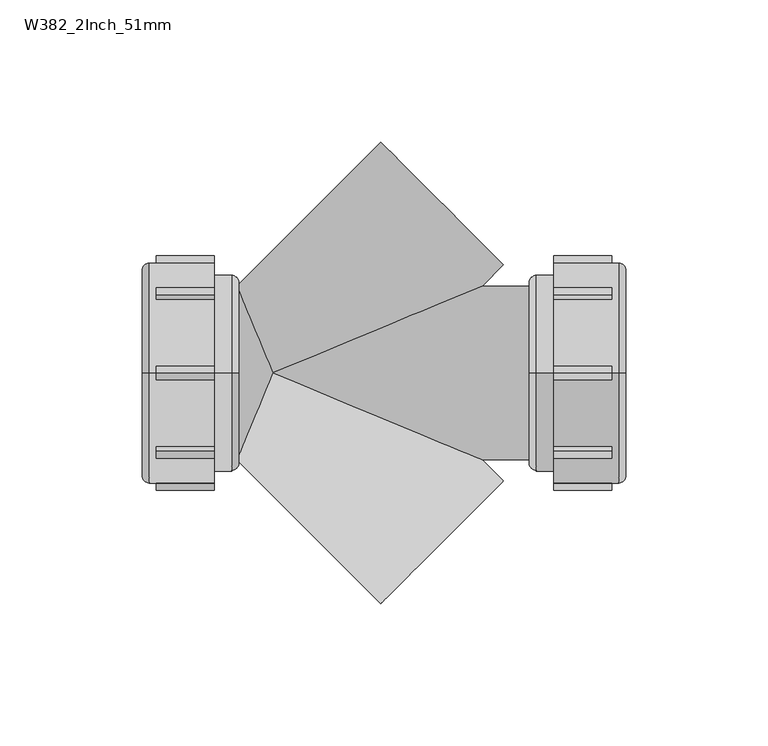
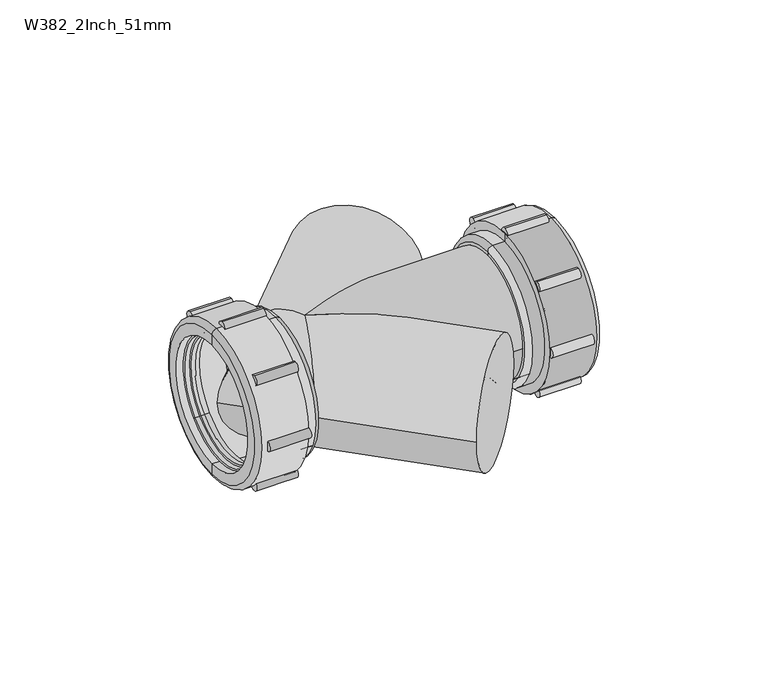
"""IFC4 building model written with IfcOpenShell, lengths in millimetres: pipe fitting geometry, Durapipe_PipeFitting_VulcatheneMechanical_DoubleWye_W38 : W382_2Inch_51mm."""

from ifc_helpers import new_model, si_unit, point, frame, frame_2d, origin, place, context, project, spatial, polyline, circle_curve, ellipse_curve, trimmed, segment, composite_curve, outline, extrude, source, transform, mapped, element, save
from ifc_brep_helpers import plane_surface, cylinder_surface, revolved_surface, advanced_brep


def w382_2inch_51mm_790bf67c(model_context):
    return source(origin(), model_context, "Body", "SolidModel", [
        advanced_brep(
        [(98.7, 0.0, 38.8), (121.6, 0.0, 38.8), (121.6, 0.0, -38.8), (98.7, 0.0, -38.8), (98.7, 0.0, 34.5), (98.7, 0.0, -34.5), (124.1, 0.0, 36.3), (124.1, 0.0, 31.0), (124.1, 0.0, -31.0), (124.1, 0.0, -36.3), (120.2, 0.0, 33.0), (98.7, 0.0, 33.0), (98.7, 0.0, -33.0), (120.2, 0.0, -33.0), (120.2, 0.0, 31.0), (120.2, 0.0, -31.0), (92.7, 0.0, 34.5), (92.7, 0.0, -34.5), (90.2, 0.0, 32.0), (90.2, 0.0, -32.0), (90.2, 0.0, 0.0), (98.7, 0.0, 0.0)],
        [
            (0, 1),
            (1, 2, circle_curve(frame((121.6, 0.0, 0.0), z_axis=(-1.0, 0.0, 0.0), x_axis=(0.0, 0.0, -1.0000000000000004)), 38.8)),
            (2, 3),
            (3, 0, circle_curve(frame((98.7, 0.0, 0.0), z_axis=(1.0, 0.0, 0.0), x_axis=(0.0, 0.0, -1.0000000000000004)), 38.8)),
            (2, 1, circle_curve(frame((121.6, 0.0, 0.0), z_axis=(-1.0, 0.0, 0.0), x_axis=(0.0, 0.0, -1.0000000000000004)), 38.8)),
            (0, 3, circle_curve(frame((98.7, 0.0, 0.0), z_axis=(1.0, 0.0, 0.0), x_axis=(0.0, 0.0, -1.0000000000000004)), 38.8)),
            (4, 0),
            (3, 5),
            (5, 4, circle_curve(frame((98.7, 0.0, 0.0), z_axis=(1.0, 0.0, 0.0), x_axis=(0.0, 0.0, -1.0000000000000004)), 34.5)),
            (4, 5, circle_curve(frame((98.7, 0.0, 0.0), z_axis=(1.0, 0.0, 0.0), x_axis=(0.0, 0.0, -1.0000000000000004)), 34.5)),
            (6, 7),
            (7, 8, circle_curve(frame((124.1, 0.0, 0.0), z_axis=(-1.0, 0.0, 0.0), x_axis=(0.0, 0.0, -1.0000000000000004)), 31.0)),
            (8, 9),
            (9, 6, circle_curve(frame((124.1, 0.0, 0.0), z_axis=(1.0, 0.0, 0.0), x_axis=(0.0, 0.0, -1.0000000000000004)), 36.3)),
            (8, 7, circle_curve(frame((124.1, 0.0, 0.0), z_axis=(-1.0, 0.0, 0.0), x_axis=(0.0, 0.0, -1.0000000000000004)), 31.0)),
            (6, 9, circle_curve(frame((124.1, 0.0, 0.0), z_axis=(1.0, 0.0, 0.0), x_axis=(0.0, 0.0, -1.0000000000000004)), 36.3)),
            (1, 6, circle_curve(frame((121.6, 0.0, 36.3), z_axis=(0.0, 1.0000000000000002, 0.0), x_axis=(1.0000000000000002, 0.0, 0.0)), 2.5)),
            (9, 2, circle_curve(frame((121.6, 0.0, -36.3), z_axis=(0.0, 1.0000000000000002, 0.0), x_axis=(1.0000000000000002, 0.0, 0.0)), 2.5)),
            (10, 11),
            (11, 12, circle_curve(frame((98.7, 0.0, 0.0), z_axis=(-1.0, 0.0, 0.0), x_axis=(0.0, 0.0, -1.0000000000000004)), 33.0)),
            (12, 13),
            (13, 10, circle_curve(frame((120.2, 0.0, 0.0), z_axis=(1.0, 0.0, 0.0), x_axis=(0.0, 0.0, -1.0000000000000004)), 33.0)),
            (12, 11, circle_curve(frame((98.7, 0.0, 0.0), z_axis=(-1.0, 0.0, 0.0), x_axis=(0.0, 0.0, -1.0000000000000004)), 33.0)),
            (10, 13, circle_curve(frame((120.2, 0.0, 0.0), z_axis=(1.0, 0.0, 0.0), x_axis=(0.0, 0.0, -1.0000000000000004)), 33.0)),
            (14, 10),
            (13, 15),
            (15, 14, circle_curve(frame((120.2, 0.0, 0.0), z_axis=(1.0, 0.0, 0.0), x_axis=(0.0, 0.0, -1.0000000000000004)), 31.0)),
            (14, 15, circle_curve(frame((120.2, 0.0, 0.0), z_axis=(1.0, 0.0, 0.0), x_axis=(0.0, 0.0, -1.0000000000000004)), 31.0)),
            (7, 14),
            (15, 8),
            (16, 4),
            (5, 17),
            (17, 16, circle_curve(frame((92.7, 0.0, 0.0), z_axis=(1.0, 0.0, 0.0), x_axis=(0.0, 0.0, -1.0000000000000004)), 34.5)),
            (16, 17, circle_curve(frame((92.7, 0.0, 0.0), z_axis=(1.0, 0.0, 0.0), x_axis=(0.0, 0.0, -1.0000000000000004)), 34.5)),
            (18, 16, circle_curve(frame((92.7, 0.0, 32.0), z_axis=(0.0, 1.0000000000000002, 0.0), x_axis=(1.0000000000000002, 0.0, 0.0)), 2.5)),
            (17, 19, circle_curve(frame((92.7, 0.0, -32.0), z_axis=(0.0, 1.0000000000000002, 0.0), x_axis=(1.0000000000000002, 0.0, 0.0)), 2.5)),
            (19, 18, circle_curve(frame((90.2, 0.0, 0.0), z_axis=(1.0, 0.0, 0.0), x_axis=(0.0, 0.0, -1.0000000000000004)), 32.0)),
            (18, 19, circle_curve(frame((90.2, 0.0, 0.0), z_axis=(1.0, 0.0, 0.0), x_axis=(0.0, 0.0, -1.0000000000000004)), 32.0)),
            (20, 18),
            (19, 20),
            (11, 21),
            (21, 12),
        ],
        [
            cylinder_surface(frame((1684.9018184, 0.0, 0.0), z_axis=(-1.0000000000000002, 0.0, 0.0), x_axis=(0.0, 0.0, -1.0000000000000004)), 38.8),
            plane_surface(frame((98.7, 0.0, 0.0), z_axis=(-1.0, 0.0, 0.0), x_axis=(0.0, 0.0, -1.0))),
            plane_surface(frame((124.1, 0.0, 0.0), z_axis=(1.0, 0.0, 0.0), x_axis=(0.0, 0.0, -1.0))),
            revolved_surface(trimmed(ellipse_curve(frame((121.6, 0.0, -36.3), z_axis=(0.0, 1.0000000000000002, 0.0), x_axis=(1.0000000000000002, 0.0, 0.0)), 2.5, 2.5), [point((124.1, 0.0, -36.3))], [point((121.6, 0.0, -38.8))], True, "CARTESIAN"), (1684.9018184, 0.0, 0.0), (-1.0000000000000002, 0.0, 0.0)),
            revolved_surface(polyline([(98.69999999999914, 0.0, -33.000000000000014), (120.19999999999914, 0.0, -33.000000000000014)]), (1684.9018184, 0.0, 0.0), (-1.0000000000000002, 0.0, 0.0)),
            plane_surface(frame((120.2, 0.0, 0.0), z_axis=(-1.0, 0.0, 0.0), x_axis=(0.0, 0.0, -1.0))),
            revolved_surface(polyline([(120.19999999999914, 0.0, -31.000000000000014), (124.099999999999, 0.0, -31.000000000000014)]), (1684.9018184, 0.0, 0.0), (-1.0000000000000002, 0.0, 0.0)),
            cylinder_surface(frame((1684.9018184, 0.0, 0.0), z_axis=(-1.0000000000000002, 0.0, 0.0), x_axis=(0.0, 0.0, -1.0000000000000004)), 34.5),
            revolved_surface(trimmed(ellipse_curve(frame((92.7, 0.0, -32.0), z_axis=(0.0, 1.0000000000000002, 0.0), x_axis=(1.0000000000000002, 0.0, 0.0)), 2.5, 2.5), [point((92.7, 0.0, -34.5))], [point((90.2, 0.0, -32.0))], True, "CARTESIAN"), (1684.9018184, 0.0, 0.0), (-1.0000000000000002, 0.0, 0.0)),
            plane_surface(frame((90.2, 0.0, 0.0), z_axis=(-1.0, 0.0, 0.0), x_axis=(0.0, 0.0, -1.0))),
            plane_surface(frame((98.7, 0.0, 0.0), z_axis=(1.0, 0.0, 0.0), x_axis=(0.0, 0.0, -1.0))),
        ],
        [
            (0, [[1, 2, 3, 4]]),
            (0, [[-3, 5, -1, 6]]),
            (1, [[7, -4, 8, 9]]),
            (1, [[-8, -6, -7, 10]]),
            (2, [[11, 12, 13, 14]]),
            (2, [[-13, 15, -11, 16]]),
            (3, [[17, -14, 18, -2]]),
            (3, [[-18, -16, -17, -5]]),
            (4, [[19, 20, 21, 22]]),
            (4, [[-21, 23, -19, 24]]),
            (5, [[25, -22, 26, 27]]),
            (5, [[-26, -24, -25, 28]]),
            (6, [[29, -27, 30, -12]]),
            (6, [[-30, -28, -29, -15]]),
            (7, [[31, -9, 32, 33]]),
            (7, [[-32, -10, -31, 34]]),
            (8, [[35, -33, 36, 37]]),
            (8, [[-36, -34, -35, 38]]),
            (9, [[39, -37, 40]]),
            (9, [[-40, -38, -39]]),
            (10, [[41, 42, -20]]),
            (10, [[-42, -41, -23]]),
        ],
    ),
        extrude(outline(composite_curve([segment(trimmed(circle_curve(frame_2d((-38.8, 0.0)), 2.5), [point((-38.8, 2.5))], [point((-38.8, -2.5))], False, "CARTESIAN"), True, "CONTINUOUS"), segment(trimmed(circle_curve(frame_2d((-38.8, 0.0)), 2.5), [point((-38.8, -2.5))], [point((-38.8, 2.5))], False, "CARTESIAN"), True, "CONTINUOUS")], self_intersect=False)), frame((98.7, 0.0, 0.0), z_axis=(1.0, 0.0, 0.0), x_axis=(0.0, 1.0, 0.0)), (0.0, 0.0, 1.0), 20.4),
        extrude(outline(composite_curve([segment(trimmed(circle_curve(frame_2d((-27.4357431, -27.4357431)), 2.5), [point((-27.4357431, -24.9357431))], [point((-27.4357431, -29.9357431))], False, "CARTESIAN"), True, "CONTINUOUS"), segment(trimmed(circle_curve(frame_2d((-27.4357431, -27.4357431)), 2.5), [point((-27.4357431, -29.9357431))], [point((-27.4357431, -24.9357431))], False, "CARTESIAN"), True, "CONTINUOUS")], self_intersect=False)), frame((98.7, 0.0, 0.0), z_axis=(1.0, 0.0, 0.0), x_axis=(0.0, 1.0, 0.0)), (0.0, 0.0, 1.0), 20.4),
        extrude(outline(composite_curve([segment(trimmed(circle_curve(frame_2d((0.0, -38.8)), 2.5), [point((0.0, -36.3))], [point((0.0, -41.3))], False, "CARTESIAN"), True, "CONTINUOUS"), segment(trimmed(circle_curve(frame_2d((0.0, -38.8)), 2.5), [point((0.0, -41.3))], [point((0.0, -36.3))], False, "CARTESIAN"), True, "CONTINUOUS")], self_intersect=False)), frame((98.7, 0.0, 0.0), z_axis=(1.0, 0.0, 0.0), x_axis=(0.0, 1.0, 0.0)), (0.0, 0.0, 1.0), 20.4),
        extrude(outline(composite_curve([segment(trimmed(circle_curve(frame_2d((27.4357431, -27.4357431)), 2.5), [point((27.4357431, -24.9357431))], [point((27.4357431, -29.9357431))], False, "CARTESIAN"), True, "CONTINUOUS"), segment(trimmed(circle_curve(frame_2d((27.4357431, -27.4357431)), 2.5), [point((27.4357431, -29.9357431))], [point((27.4357431, -24.9357431))], False, "CARTESIAN"), True, "CONTINUOUS")], self_intersect=False)), frame((98.7, 0.0, 0.0), z_axis=(1.0, 0.0, 0.0), x_axis=(0.0, 1.0, 0.0)), (0.0, 0.0, 1.0), 20.4),
        extrude(outline(composite_curve([segment(trimmed(circle_curve(frame_2d((38.8, 0.0)), 2.5), [point((38.8, 2.5))], [point((38.8, -2.5))], False, "CARTESIAN"), True, "CONTINUOUS"), segment(trimmed(circle_curve(frame_2d((38.8, 0.0)), 2.5), [point((38.8, -2.5))], [point((38.8, 2.5))], False, "CARTESIAN"), True, "CONTINUOUS")], self_intersect=False)), frame((98.7, 0.0, 0.0), z_axis=(1.0, 0.0, 0.0), x_axis=(0.0, 1.0, 0.0)), (0.0, 0.0, 1.0), 20.4),
        extrude(outline(composite_curve([segment(trimmed(circle_curve(frame_2d((27.4357431, 27.4357431)), 2.5), [point((27.4357431, 29.9357431))], [point((27.4357431, 24.9357431))], False, "CARTESIAN"), True, "CONTINUOUS"), segment(trimmed(circle_curve(frame_2d((27.4357431, 27.4357431)), 2.5), [point((27.4357431, 24.9357431))], [point((27.4357431, 29.9357431))], False, "CARTESIAN"), True, "CONTINUOUS")], self_intersect=False)), frame((98.7, 0.0, 0.0), z_axis=(1.0, 0.0, 0.0), x_axis=(0.0, 1.0, 0.0)), (0.0, 0.0, 1.0), 20.4),
        extrude(outline(composite_curve([segment(trimmed(circle_curve(frame_2d((0.0, 38.8)), 2.5), [point((0.0, 41.3))], [point((0.0, 36.3))], False, "CARTESIAN"), True, "CONTINUOUS"), segment(trimmed(circle_curve(frame_2d((0.0, 38.8)), 2.5), [point((0.0, 36.3))], [point((0.0, 41.3))], False, "CARTESIAN"), True, "CONTINUOUS")], self_intersect=False)), frame((98.7, 0.0, 0.0), z_axis=(1.0, 0.0, 0.0), x_axis=(0.0, 1.0, 0.0)), (0.0, 0.0, 1.0), 20.4),
        extrude(outline(composite_curve([segment(trimmed(circle_curve(frame_2d((-27.4357431, 27.4357431)), 2.5), [point((-27.4357431, 29.9357431))], [point((-27.4357431, 24.9357431))], False, "CARTESIAN"), True, "CONTINUOUS"), segment(trimmed(circle_curve(frame_2d((-27.4357431, 27.4357431)), 2.5), [point((-27.4357431, 24.9357431))], [point((-27.4357431, 29.9357431))], False, "CARTESIAN"), True, "CONTINUOUS")], self_intersect=False)), frame((98.7, 0.0, 0.0), z_axis=(1.0, 0.0, 0.0), x_axis=(0.0, 1.0, 0.0)), (0.0, 0.0, 1.0), 20.4),
        advanced_brep(
        [(-42.0, 22.839549, -22.839549), (-42.0, 21.2839141, -21.2839141), (-42.0, -21.2839141, 21.2839141), (-42.0, -22.839549, 22.839549), (-36.4, 22.3445743, -22.3445743), (-36.4, -22.3445743, 22.3445743), (-35.0, 21.9203102, -21.9203102), (-36.4, 21.9203102, -21.9203102), (-36.4, -21.9203102, 21.9203102), (-35.0, -21.9203102, 21.9203102), (-35.0, -20.9303607, 20.9303607), (-35.0, 20.9303607, -20.9303607), (-37.3, -20.9303607, 20.9303607), (-37.3, 20.9303607, -20.9303607), (-37.3, -20.647518, 20.647518), (-37.3, 20.647518, -20.647518), (-39.5, 21.2839141, -21.2839141), (-39.5, 20.647518, -20.647518), (-39.5, -20.647518, 20.647518), (-39.5, -21.2839141, 21.2839141)],
        [
            (0, 1),
            (1, 2, circle_curve(frame((-42.0, 0.0, 0.0), z_axis=(1.0, 0.0, 0.0), x_axis=(0.0, -0.7071067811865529, 0.7071067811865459)), 30.1)),
            (2, 3),
            (3, 0, circle_curve(frame((-42.0, 0.0, 0.0), z_axis=(-1.0, 0.0, 0.0), x_axis=(0.0, -0.7071067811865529, 0.7071067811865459)), 32.3)),
            (2, 1, circle_curve(frame((-42.0, 0.0, 0.0), z_axis=(1.0, 0.0, 0.0), x_axis=(0.0, -0.7071067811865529, 0.7071067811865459)), 30.1)),
            (0, 3, circle_curve(frame((-42.0, 0.0, 0.0), z_axis=(-1.0, 0.0, 0.0), x_axis=(0.0, -0.7071067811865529, 0.7071067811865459)), 32.3)),
            (4, 0),
            (3, 5),
            (5, 4, circle_curve(frame((-36.4, 0.0, 0.0), z_axis=(-1.0, 0.0, 0.0), x_axis=(0.0, -0.7071067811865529, 0.7071067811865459)), 31.6)),
            (4, 5, circle_curve(frame((-36.4, 0.0, 0.0), z_axis=(-1.0, 0.0, 0.0), x_axis=(0.0, -0.7071067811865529, 0.7071067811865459)), 31.6)),
            (6, 7),
            (7, 8, circle_curve(frame((-36.4, 0.0, 0.0), z_axis=(1.0, 0.0, 0.0), x_axis=(0.0, -0.7071067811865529, 0.7071067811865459)), 31.0)),
            (8, 9),
            (9, 6, circle_curve(frame((-35.0, 0.0, 0.0), z_axis=(-1.0, 0.0, 0.0), x_axis=(0.0, -0.7071067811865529, 0.7071067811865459)), 31.0)),
            (8, 7, circle_curve(frame((-36.4, 0.0, 0.0), z_axis=(1.0, 0.0, 0.0), x_axis=(0.0, -0.7071067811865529, 0.7071067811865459)), 31.0)),
            (6, 9, circle_curve(frame((-35.0, 0.0, 0.0), z_axis=(-1.0, 0.0, 0.0), x_axis=(0.0, -0.7071067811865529, 0.7071067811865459)), 31.0)),
            (9, 10),
            (10, 11, circle_curve(frame((-35.0, 0.0, 0.0), z_axis=(-1.0, 0.0, 0.0), x_axis=(0.0, -0.7071067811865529, 0.7071067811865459)), 29.6)),
            (11, 6),
            (11, 10, circle_curve(frame((-35.0, 0.0, 0.0), z_axis=(-1.0, 0.0, 0.0), x_axis=(0.0, -0.7071067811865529, 0.7071067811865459)), 29.6)),
            (10, 12),
            (12, 13, circle_curve(frame((-37.3, 0.0, 0.0), z_axis=(-1.0, 0.0, 0.0), x_axis=(0.0, -0.7071067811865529, 0.7071067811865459)), 29.6)),
            (13, 11),
            (13, 12, circle_curve(frame((-37.3, 0.0, 0.0), z_axis=(-1.0, 0.0, 0.0), x_axis=(0.0, -0.7071067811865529, 0.7071067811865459)), 29.6)),
            (12, 14),
            (14, 15, circle_curve(frame((-37.3, 0.0, 0.0), z_axis=(-1.0, 0.0, 0.0), x_axis=(0.0, -0.7071067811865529, 0.7071067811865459)), 29.2)),
            (15, 13),
            (15, 14, circle_curve(frame((-37.3, 0.0, 0.0), z_axis=(-1.0, 0.0, 0.0), x_axis=(0.0, -0.7071067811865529, 0.7071067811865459)), 29.2)),
            (16, 17),
            (17, 18, circle_curve(frame((-39.5, 0.0, 0.0), z_axis=(1.0, 0.0, 0.0), x_axis=(0.0, -0.7071067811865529, 0.7071067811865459)), 29.2)),
            (18, 19),
            (19, 16, circle_curve(frame((-39.5, 0.0, 0.0), z_axis=(-1.0, 0.0, 0.0), x_axis=(0.0, -0.7071067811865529, 0.7071067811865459)), 30.1)),
            (18, 17, circle_curve(frame((-39.5, 0.0, 0.0), z_axis=(1.0, 0.0, 0.0), x_axis=(0.0, -0.7071067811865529, 0.7071067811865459)), 29.2)),
            (16, 19, circle_curve(frame((-39.5, 0.0, 0.0), z_axis=(-1.0, 0.0, 0.0), x_axis=(0.0, -0.7071067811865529, 0.7071067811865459)), 30.1)),
            (1, 16),
            (19, 2),
            (14, 18),
            (17, 15),
            (5, 8),
            (7, 4),
        ],
        [
            plane_surface(frame((-42.0, 0.0, 0.0), z_axis=(-1.0, 0.0, 0.0), x_axis=(0.0, -0.707106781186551, 0.707106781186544))),
            revolved_surface(polyline([(-42.0, -22.839549, 22.839549), (-36.4, -22.3445743, 22.3445743)]), (-47.0, 0.0, 0.0), (1.0000000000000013, 0.0, 0.0)),
            cylinder_surface(frame((-32.9293443, 0.0, 0.0), z_axis=(1.0000000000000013, 0.0, 0.0), x_axis=(0.0, -0.7071067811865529, 0.7071067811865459)), 31.0),
            plane_surface(frame((-35.0, 0.0, 0.0), z_axis=(1.0, 0.0, 0.0), x_axis=(0.0, -0.707106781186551, 0.707106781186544))),
            revolved_surface(polyline([(-35.00000000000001, -20.930360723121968, 20.93036072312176), (-37.30000000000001, -20.930360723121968, 20.93036072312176)]), (-31.507009, 0.0, 0.0), (1.0000000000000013, 0.0, 0.0)),
            plane_surface(frame((-37.3, 0.0, 0.0), z_axis=(1.0, 0.0, 0.0), x_axis=(0.0, -0.707106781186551, 0.707106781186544))),
            plane_surface(frame((-39.5, 0.0, 0.0), z_axis=(-1.0, 0.0, 0.0), x_axis=(0.0, -0.707106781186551, 0.707106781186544))),
            revolved_surface(polyline([(-39.49999999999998, -21.283914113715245, 21.28391411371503), (-41.999999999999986, -21.283914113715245, 21.28391411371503)]), (-47.0, 0.0, 0.0), (1.0000000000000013, 0.0, 0.0)),
            revolved_surface(polyline([(-37.29999999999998, -20.647518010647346, 20.64751801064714), (-39.499999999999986, -20.647518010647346, 20.64751801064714)]), (-43.5661924, 0.0, 0.0), (1.0000000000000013, 0.0, 0.0)),
            plane_surface(frame((-36.4, 0.0, 0.0), z_axis=(1.0, 0.0, 0.0), x_axis=(0.0, -0.707106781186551, 0.707106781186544))),
        ],
        [
            (0, [[1, 2, 3, 4]]),
            (0, [[5, -1, 6, -3]]),
            (1, [[7, -4, 8, 9]]),
            (1, [[-8, -6, -7, 10]]),
            (2, [[11, 12, 13, 14]]),
            (2, [[15, -11, 16, -13]]),
            (3, [[17, 18, 19, -14]]),
            (3, [[-19, 20, -17, -16]]),
            (4, [[-18, 21, 22, 23]]),
            (4, [[24, -21, -20, -23]]),
            (5, [[25, 26, 27, -22]]),
            (5, [[-27, 28, -25, -24]]),
            (6, [[29, 30, 31, 32]]),
            (6, [[-31, 33, -29, 34]]),
            (7, [[35, -32, 36, -2]]),
            (7, [[-36, -34, -35, -5]]),
            (8, [[-26, 37, -30, 38]]),
            (8, [[-33, -37, -28, -38]]),
            (9, [[39, -12, 40, -9]]),
            (9, [[-40, -15, -39, -10]]),
        ],
    ),
        advanced_brep(
        [(-20.5, 0.0, -38.8), (-43.4, 0.0, -38.8), (-43.4, 0.0, 38.8), (-20.5, 0.0, 38.8), (-20.5, 0.0, -34.5), (-20.5, 0.0, 34.5), (-45.9, 0.0, -36.3), (-45.9, 0.0, -31.0), (-45.9, 0.0, 31.0), (-45.9, 0.0, 36.3), (-42.0, 0.0, -33.0), (-20.5, 0.0, -33.0), (-20.5, 0.0, 33.0), (-42.0, 0.0, 33.0), (-42.0, 0.0, -31.0), (-42.0, 0.0, 31.0), (-14.5, 0.0, -34.5), (-14.5, 0.0, 34.5), (-12.0, 0.0, -32.0), (-12.0, 0.0, 32.0), (-12.0, 0.0, 0.0), (-20.5, 0.0, 0.0)],
        [
            (0, 1),
            (1, 2, circle_curve(frame((-43.4, 0.0, 0.0), z_axis=(1.0, 0.0, 0.0), x_axis=(0.0, 0.0, 1.0000000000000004)), 38.8)),
            (2, 3),
            (3, 0, circle_curve(frame((-20.5, 0.0, 0.0), z_axis=(-1.0, 0.0, 0.0), x_axis=(0.0, 0.0, 1.0000000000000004)), 38.8)),
            (2, 1, circle_curve(frame((-43.4, 0.0, 0.0), z_axis=(1.0, 0.0, 0.0), x_axis=(0.0, 0.0, 1.0000000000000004)), 38.8)),
            (0, 3, circle_curve(frame((-20.5, 0.0, 0.0), z_axis=(-1.0, 0.0, 0.0), x_axis=(0.0, 0.0, 1.0000000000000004)), 38.8)),
            (4, 0),
            (3, 5),
            (5, 4, circle_curve(frame((-20.5, 0.0, 0.0), z_axis=(-1.0, 0.0, 0.0), x_axis=(0.0, 0.0, 1.0000000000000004)), 34.5)),
            (4, 5, circle_curve(frame((-20.5, 0.0, 0.0), z_axis=(-1.0, 0.0, 0.0), x_axis=(0.0, 0.0, 1.0000000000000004)), 34.5)),
            (6, 7),
            (7, 8, circle_curve(frame((-45.9, 0.0, 0.0), z_axis=(1.0, 0.0, 0.0), x_axis=(0.0, 0.0, 1.0000000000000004)), 31.0)),
            (8, 9),
            (9, 6, circle_curve(frame((-45.9, 0.0, 0.0), z_axis=(-1.0, 0.0, 0.0), x_axis=(0.0, 0.0, 1.0000000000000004)), 36.3)),
            (8, 7, circle_curve(frame((-45.9, 0.0, 0.0), z_axis=(1.0, 0.0, 0.0), x_axis=(0.0, 0.0, 1.0000000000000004)), 31.0)),
            (6, 9, circle_curve(frame((-45.9, 0.0, 0.0), z_axis=(-1.0, 0.0, 0.0), x_axis=(0.0, 0.0, 1.0000000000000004)), 36.3)),
            (1, 6, circle_curve(frame((-43.4, 0.0, -36.3), z_axis=(0.0, 1.0000000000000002, 0.0), x_axis=(-1.0000000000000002, 0.0, 0.0)), 2.5)),
            (9, 2, circle_curve(frame((-43.4, 0.0, 36.3), z_axis=(0.0, 1.0000000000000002, 0.0), x_axis=(-1.0000000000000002, 0.0, 0.0)), 2.5)),
            (10, 11),
            (11, 12, circle_curve(frame((-20.5, 0.0, 0.0), z_axis=(1.0, 0.0, 0.0), x_axis=(0.0, 0.0, 1.0000000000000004)), 33.0)),
            (12, 13),
            (13, 10, circle_curve(frame((-42.0, 0.0, 0.0), z_axis=(-1.0, 0.0, 0.0), x_axis=(0.0, 0.0, 1.0000000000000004)), 33.0)),
            (12, 11, circle_curve(frame((-20.5, 0.0, 0.0), z_axis=(1.0, 0.0, 0.0), x_axis=(0.0, 0.0, 1.0000000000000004)), 33.0)),
            (10, 13, circle_curve(frame((-42.0, 0.0, 0.0), z_axis=(-1.0, 0.0, 0.0), x_axis=(0.0, 0.0, 1.0000000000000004)), 33.0)),
            (14, 10),
            (13, 15),
            (15, 14, circle_curve(frame((-42.0, 0.0, 0.0), z_axis=(-1.0, 0.0, 0.0), x_axis=(0.0, 0.0, 1.0000000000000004)), 31.0)),
            (14, 15, circle_curve(frame((-42.0, 0.0, 0.0), z_axis=(-1.0, 0.0, 0.0), x_axis=(0.0, 0.0, 1.0000000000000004)), 31.0)),
            (7, 14),
            (15, 8),
            (16, 4),
            (5, 17),
            (17, 16, circle_curve(frame((-14.5, 0.0, 0.0), z_axis=(-1.0, 0.0, 0.0), x_axis=(0.0, 0.0, 1.0000000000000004)), 34.5)),
            (16, 17, circle_curve(frame((-14.5, 0.0, 0.0), z_axis=(-1.0, 0.0, 0.0), x_axis=(0.0, 0.0, 1.0000000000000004)), 34.5)),
            (18, 16, circle_curve(frame((-14.5, 0.0, -32.0), z_axis=(0.0, 1.0000000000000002, 0.0), x_axis=(-1.0000000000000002, 0.0, 0.0)), 2.5)),
            (17, 19, circle_curve(frame((-14.5, 0.0, 32.0), z_axis=(0.0, 1.0000000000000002, 0.0), x_axis=(-1.0000000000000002, 0.0, 0.0)), 2.5)),
            (19, 18, circle_curve(frame((-12.0, 0.0, 0.0), z_axis=(-1.0, 0.0, 0.0), x_axis=(0.0, 0.0, 1.0000000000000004)), 32.0)),
            (18, 19, circle_curve(frame((-12.0, 0.0, 0.0), z_axis=(-1.0, 0.0, 0.0), x_axis=(0.0, 0.0, 1.0000000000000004)), 32.0)),
            (20, 18),
            (19, 20),
            (11, 21),
            (21, 12),
        ],
        [
            cylinder_surface(frame((-1606.7018184, 0.0, 0.0), z_axis=(1.0000000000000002, 0.0, 0.0), x_axis=(0.0, 0.0, 1.0000000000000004)), 38.8),
            plane_surface(frame((-20.5, 0.0, 0.0), z_axis=(1.0, 0.0, 0.0), x_axis=(0.0, 0.0, 1.0))),
            plane_surface(frame((-45.9, 0.0, 0.0), z_axis=(-1.0, 0.0, 0.0), x_axis=(0.0, 0.0, 1.0))),
            revolved_surface(trimmed(ellipse_curve(frame((-43.4, 0.0, 36.3), z_axis=(0.0, 1.0000000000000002, 0.0), x_axis=(-1.0000000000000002, 0.0, 0.0)), 2.5, 2.5), [point((-45.9, 0.0, 36.3))], [point((-43.4, 0.0, 38.8))], True, "CARTESIAN"), (-1606.7018184, 0.0, 0.0), (1.0000000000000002, 0.0, 0.0)),
            revolved_surface(polyline([(-20.49999999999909, 0.0, 33.000000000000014), (-41.99999999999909, 0.0, 33.000000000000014)]), (-1606.7018184, 0.0, 0.0), (1.0000000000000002, 0.0, 0.0)),
            plane_surface(frame((-42.0, 0.0, 0.0), z_axis=(1.0, 0.0, 0.0), x_axis=(0.0, 0.0, 1.0))),
            revolved_surface(polyline([(-41.99999999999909, 0.0, 31.000000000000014), (-45.89999999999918, 0.0, 31.000000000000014)]), (-1606.7018184, 0.0, 0.0), (1.0000000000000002, 0.0, 0.0)),
            cylinder_surface(frame((-1606.7018184, 0.0, 0.0), z_axis=(1.0000000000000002, 0.0, 0.0), x_axis=(0.0, 0.0, 1.0000000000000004)), 34.5),
            revolved_surface(trimmed(ellipse_curve(frame((-14.5, 0.0, 32.0), z_axis=(0.0, 1.0000000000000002, 0.0), x_axis=(-1.0000000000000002, 0.0, 0.0)), 2.5, 2.5), [point((-14.5, 0.0, 34.5))], [point((-12.0, 0.0, 32.0))], True, "CARTESIAN"), (-1606.7018184, 0.0, 0.0), (1.0000000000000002, 0.0, 0.0)),
            plane_surface(frame((-12.0, 0.0, 0.0), z_axis=(1.0, 0.0, 0.0), x_axis=(0.0, 0.0, 1.0))),
            plane_surface(frame((-20.5, 0.0, 0.0), z_axis=(-1.0, 0.0, 0.0), x_axis=(0.0, 0.0, 1.0))),
        ],
        [
            (0, [[1, 2, 3, 4]]),
            (0, [[-3, 5, -1, 6]]),
            (1, [[7, -4, 8, 9]]),
            (1, [[-8, -6, -7, 10]]),
            (2, [[11, 12, 13, 14]]),
            (2, [[-13, 15, -11, 16]]),
            (3, [[17, -14, 18, -2]]),
            (3, [[-18, -16, -17, -5]]),
            (4, [[19, 20, 21, 22]]),
            (4, [[-21, 23, -19, 24]]),
            (5, [[25, -22, 26, 27]]),
            (5, [[-26, -24, -25, 28]]),
            (6, [[29, -27, 30, -12]]),
            (6, [[-30, -28, -29, -15]]),
            (7, [[31, -9, 32, 33]]),
            (7, [[-32, -10, -31, 34]]),
            (8, [[35, -33, 36, 37]]),
            (8, [[-36, -34, -35, 38]]),
            (9, [[39, -37, 40]]),
            (9, [[-40, -38, -39]]),
            (10, [[41, 42, -20]]),
            (10, [[-42, -41, -23]]),
        ],
    ),
        extrude(outline(composite_curve([segment(trimmed(circle_curve(frame_2d((-38.8, 0.0)), 2.5), [point((-38.8, -2.5))], [point((-38.8, 2.5))], False, "CARTESIAN"), True, "CONTINUOUS"), segment(trimmed(circle_curve(frame_2d((-38.8, 0.0)), 2.5), [point((-38.8, 2.5))], [point((-38.8, -2.5))], False, "CARTESIAN"), True, "CONTINUOUS")], self_intersect=False)), frame((-40.9, 0.0, 0.0), z_axis=(1.0, 0.0, 0.0), x_axis=(0.0, 1.0, 0.0)), (0.0, 0.0, 1.0), 20.4),
        extrude(outline(composite_curve([segment(trimmed(circle_curve(frame_2d((-27.4357431, 27.4357431)), 2.5), [point((-27.4357431, 24.9357431))], [point((-27.4357431, 29.9357431))], False, "CARTESIAN"), True, "CONTINUOUS"), segment(trimmed(circle_curve(frame_2d((-27.4357431, 27.4357431)), 2.5), [point((-27.4357431, 29.9357431))], [point((-27.4357431, 24.9357431))], False, "CARTESIAN"), True, "CONTINUOUS")], self_intersect=False)), frame((-40.9, 0.0, 0.0), z_axis=(1.0, 0.0, 0.0), x_axis=(0.0, 1.0, 0.0)), (0.0, 0.0, 1.0), 20.4),
        extrude(outline(composite_curve([segment(trimmed(circle_curve(frame_2d((0.0, 38.8)), 2.5), [point((0.0, 36.3))], [point((0.0, 41.3))], False, "CARTESIAN"), True, "CONTINUOUS"), segment(trimmed(circle_curve(frame_2d((0.0, 38.8)), 2.5), [point((0.0, 41.3))], [point((0.0, 36.3))], False, "CARTESIAN"), True, "CONTINUOUS")], self_intersect=False)), frame((-40.9, 0.0, 0.0), z_axis=(1.0, 0.0, 0.0), x_axis=(0.0, 1.0, 0.0)), (0.0, 0.0, 1.0), 20.4),
        extrude(outline(composite_curve([segment(trimmed(circle_curve(frame_2d((27.4357431, 27.4357431)), 2.5), [point((27.4357431, 24.9357431))], [point((27.4357431, 29.9357431))], False, "CARTESIAN"), True, "CONTINUOUS"), segment(trimmed(circle_curve(frame_2d((27.4357431, 27.4357431)), 2.5), [point((27.4357431, 29.9357431))], [point((27.4357431, 24.9357431))], False, "CARTESIAN"), True, "CONTINUOUS")], self_intersect=False)), frame((-40.9, 0.0, 0.0), z_axis=(1.0, 0.0, 0.0), x_axis=(0.0, 1.0, 0.0)), (0.0, 0.0, 1.0), 20.4),
        extrude(outline(composite_curve([segment(trimmed(circle_curve(frame_2d((38.8, 0.0)), 2.5), [point((38.8, -2.5))], [point((38.8, 2.5))], False, "CARTESIAN"), True, "CONTINUOUS"), segment(trimmed(circle_curve(frame_2d((38.8, 0.0)), 2.5), [point((38.8, 2.5))], [point((38.8, -2.5))], False, "CARTESIAN"), True, "CONTINUOUS")], self_intersect=False)), frame((-40.9, 0.0, 0.0), z_axis=(1.0, 0.0, 0.0), x_axis=(0.0, 1.0, 0.0)), (0.0, 0.0, 1.0), 20.4),
        extrude(outline(composite_curve([segment(trimmed(circle_curve(frame_2d((27.4357431, -27.4357431)), 2.5), [point((27.4357431, -29.9357431))], [point((27.4357431, -24.9357431))], False, "CARTESIAN"), True, "CONTINUOUS"), segment(trimmed(circle_curve(frame_2d((27.4357431, -27.4357431)), 2.5), [point((27.4357431, -24.9357431))], [point((27.4357431, -29.9357431))], False, "CARTESIAN"), True, "CONTINUOUS")], self_intersect=False)), frame((-40.9, 0.0, 0.0), z_axis=(1.0, 0.0, 0.0), x_axis=(0.0, 1.0, 0.0)), (0.0, 0.0, 1.0), 20.4),
        extrude(outline(composite_curve([segment(trimmed(circle_curve(frame_2d((0.0, -38.8)), 2.5), [point((0.0, -41.3))], [point((0.0, -36.3))], False, "CARTESIAN"), True, "CONTINUOUS"), segment(trimmed(circle_curve(frame_2d((0.0, -38.8)), 2.5), [point((0.0, -36.3))], [point((0.0, -41.3))], False, "CARTESIAN"), True, "CONTINUOUS")], self_intersect=False)), frame((-40.9, 0.0, 0.0), z_axis=(1.0, 0.0, 0.0), x_axis=(0.0, 1.0, 0.0)), (0.0, 0.0, 1.0), 20.4),
        extrude(outline(composite_curve([segment(trimmed(circle_curve(frame_2d((-27.4357431, -27.4357431)), 2.5), [point((-27.4357431, -29.9357431))], [point((-27.4357431, -24.9357431))], False, "CARTESIAN"), True, "CONTINUOUS"), segment(trimmed(circle_curve(frame_2d((-27.4357431, -27.4357431)), 2.5), [point((-27.4357431, -24.9357431))], [point((-27.4357431, -29.9357431))], False, "CARTESIAN"), True, "CONTINUOUS")], self_intersect=False)), frame((-40.9, 0.0, 0.0), z_axis=(1.0, 0.0, 0.0), x_axis=(0.0, 1.0, 0.0)), (0.0, 0.0, 1.0), 20.4),
        advanced_brep(
        [(-20.5, 30.5, 0.0), (-20.5, -30.5, 0.0), (-20.5, 0.0, 26.8351449), (-20.5, -22.6335137, 0.0), (-20.5, 0.0, -26.8351449), (-20.5, 22.6335137, 0.0), (98.7, 30.5, 0.0), (98.7, -30.5, 0.0), (-12.6335137, -30.5, 0.0), (0.0, 0.0, 30.5), (-12.6335137, 30.5, 0.0), (73.6335137, 30.5, 0.0), (73.6335137, -30.5, 0.0), (0.0, 0.0, -30.5), (37.9716341, -81.1051478, 0.0), (81.1051478, -37.9716341, 0.0), (37.9716341, 81.1051478, 0.0), (81.1051478, 37.9716341, 0.0), (-43.1335137, 0.0, 0.0)],
        [
            (0, 1, circle_curve(frame((-20.5, 0.0, 0.0), z_axis=(-1.0, 0.0, 0.0), x_axis=(0.0, -1.0, 0.0)), 30.5)),
            (1, 0, circle_curve(frame((-20.5, 0.0, 0.0), z_axis=(-1.0, 0.0, 0.0), x_axis=(0.0, -1.0, 0.0)), 30.5)),
            (2, 3, ellipse_curve(frame((-20.5, 20.5, 0.0), z_axis=(1.0, 0.0, 0.0), x_axis=(0.0, -1.0, 0.0)), 43.1335137, 30.5)),
            (3, 4, ellipse_curve(frame((-20.5, 20.5, 0.0), z_axis=(1.0, 0.0, 0.0), x_axis=(0.0, -1.0, 0.0)), 43.1335137, 30.5)),
            (4, 5, ellipse_curve(frame((-20.5, -20.5, 0.0), z_axis=(1.0, 0.0, 0.0), x_axis=(0.0, -1.0, 0.0)), 43.1335137, 30.5)),
            (5, 2, ellipse_curve(frame((-20.5, -20.5, 0.0), z_axis=(1.0, 0.0, 0.0), x_axis=(0.0, -1.0, 0.0)), 43.1335137, 30.5)),
            (6, 7, circle_curve(frame((98.7, 0.0, 0.0), z_axis=(1.0, 0.0, 0.0), x_axis=(0.0, -1.0, 0.0)), 30.5)),
            (7, 6, circle_curve(frame((98.7, 0.0, 0.0), z_axis=(1.0, 0.0, 0.0), x_axis=(0.0, -1.0, 0.0)), 30.5)),
            (1, 8),
            (8, 9, ellipse_curve(frame((0.0, 0.0, 0.0), z_axis=(-0.923879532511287, 0.382683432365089, 0.0), x_axis=(-0.3826834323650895, -0.923879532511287, 0.0)), 33.0129621, 30.5)),
            (9, 10, ellipse_curve(frame((0.0, 0.0, 0.0), z_axis=(-0.9238795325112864, -0.38268343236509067, 0.0), x_axis=(-0.3826834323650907, 0.9238795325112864, 0.0)), 33.0129621, 30.5)),
            (10, 0),
            (6, 11),
            (11, 9, ellipse_curve(frame((0.0, 0.0, 0.0), z_axis=(0.38268343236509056, -0.9238795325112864, 0.0), x_axis=(-0.9238795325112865, -0.38268343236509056, 0.0)), 79.7003409, 30.5)),
            (9, 12, ellipse_curve(frame((0.0, 0.0, 0.0), z_axis=(0.382683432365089, 0.9238795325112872, 0.0), x_axis=(-0.923879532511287, 0.382683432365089, 0.0)), 79.7003409, 30.5)),
            (12, 7),
            (10, 13, ellipse_curve(frame((0.0, 0.0, 0.0), z_axis=(-0.9238795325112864, -0.38268343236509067, 0.0), x_axis=(-0.3826834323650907, 0.9238795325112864, 0.0)), 33.0129621, 30.5)),
            (13, 8, ellipse_curve(frame((0.0, 0.0, 0.0), z_axis=(-0.923879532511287, 0.382683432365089, 0.0), x_axis=(-0.3826834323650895, -0.923879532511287, 0.0)), 33.0129621, 30.5)),
            (12, 13, ellipse_curve(frame((0.0, 0.0, 0.0), z_axis=(0.382683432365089, 0.9238795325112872, 0.0), x_axis=(-0.923879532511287, 0.382683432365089, 0.0)), 79.7003409, 30.5)),
            (13, 11, ellipse_curve(frame((0.0, 0.0, 0.0), z_axis=(0.38268343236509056, -0.9238795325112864, 0.0), x_axis=(-0.9238795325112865, -0.38268343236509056, 0.0)), 79.7003409, 30.5)),
            (14, 15, circle_curve(frame((59.538391, -59.538391, 0.0), z_axis=(0.7071067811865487, -0.7071067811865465, 0.0), x_axis=(0.7071067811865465, 0.7071067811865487, 0.0)), 30.5)),
            (15, 14, circle_curve(frame((59.538391, -59.538391, 0.0), z_axis=(0.7071067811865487, -0.7071067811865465, 0.0), x_axis=(0.7071067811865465, 0.7071067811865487, 0.0)), 30.5)),
            (16, 17, circle_curve(frame((59.538391, 59.538391, 0.0), z_axis=(0.7071067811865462, 0.7071067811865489, 0.0), x_axis=(0.7071067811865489, -0.7071067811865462, 0.0)), 30.5)),
            (17, 16, circle_curve(frame((59.538391, 59.538391, 0.0), z_axis=(0.7071067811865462, 0.7071067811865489, 0.0), x_axis=(0.7071067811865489, -0.7071067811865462, 0.0)), 30.5)),
            (16, 10),
            (11, 17),
            (18, 2, ellipse_curve(frame((0.0, 0.0, 0.0), z_axis=(0.0, 1.0, 0.0), x_axis=(-1.0, 0.0, 0.0)), 43.1335137, 30.5)),
            (5, 18),
            (4, 18, ellipse_curve(frame((0.0, 0.0, 0.0), z_axis=(0.0, 1.0, 0.0), x_axis=(-1.0, 0.0, 0.0)), 43.1335137, 30.5)),
            (18, 3),
            (15, 12),
            (8, 14),
        ],
        [
            plane_surface(frame((-20.5, 0.0, 0.0), z_axis=(-1.0, 0.0, 0.0), x_axis=(0.0, 0.0, 1.0))),
            plane_surface(frame((98.7, 0.0, 0.0), z_axis=(1.0, 0.0, 0.0), x_axis=(0.0, 0.0, 1.0))),
            cylinder_surface(frame((-20.5, 0.0, 0.0), z_axis=(-1.0, 0.0, 0.0), x_axis=(0.0, -1.0, 0.0)), 30.5),
            plane_surface(frame((59.538391, -59.538391, 0.0), z_axis=(0.7071067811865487, -0.7071067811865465, 0.0), x_axis=(0.0, 0.0, 1.0))),
            plane_surface(frame((59.538391, 59.538391, 0.0), z_axis=(0.7071067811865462, 0.7071067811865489, 0.0), x_axis=(0.0, 0.0, 1.0))),
            cylinder_surface(frame((0.0, 0.0, 0.0), z_axis=(-0.7071067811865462, -0.7071067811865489, 0.0), x_axis=(0.7071067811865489, -0.7071067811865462, 0.0)), 30.5),
            cylinder_surface(frame((59.538391, -59.538391, 0.0), z_axis=(0.7071067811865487, -0.7071067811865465, 0.0), x_axis=(0.7071067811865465, 0.7071067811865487, 0.0)), 30.5),
        ],
        [
            (0, [[1, 2], [3, 4, 5, 6]]),
            (1, [[7, 8]]),
            (2, [[9, 10, 11, 12, -2]]),
            (2, [[13, 14, 15, 16, -7]]),
            (2, [[-12, 17, 18, -9, -1]]),
            (2, [[-16, 19, 20, -13, -8]]),
            (3, [[21, 22]]),
            (4, [[23, 24]]),
            (5, [[25, -11, -14, 26, -23]]),
            (5, [[27, -6, 28]]),
            (5, [[-5, 29, -28]]),
            (5, [[-26, -20, -17, -25, -24]]),
            (6, [[-3, -27, 30]]),
            (6, [[31, -15, -10, 32, -22]]),
            (6, [[-29, -4, -30]]),
            (6, [[-32, -18, -19, -31, -21]]),
        ],
    ),
    ])


if __name__ == "__main__":
    model = new_model("IFC4")
    model_context = context("Model", 3, world=origin())
    ifc_project = project(units=[si_unit("LENGTHUNIT", "METRE", prefix="MILLI")], contexts=[model_context])
    site = spatial("IfcSite", under=ifc_project)
    building = spatial("IfcBuilding", under=site)
    placement = place(None, origin())
    w382_2inch_51mm_shape = w382_2inch_51mm_790bf67c(model_context)
    element("IfcPipeFitting", 1, ObjectType="Durapipe_PipeFitting_VulcatheneMechanical_DoubleWye_W38 : W382_2Inch_51mm", at=placement, inside=building, context=model_context, shape_type="MappedRepresentation", body=[
        mapped(w382_2inch_51mm_shape, transform((0.0, 0.0, 0.0), x_axis=(1.0, 0.0, 0.0), y_axis=(0.0, 1.0, 0.0), z_axis=(0.0, 0.0, 1.0))),
    ])
    save(model, "model.ifc")
